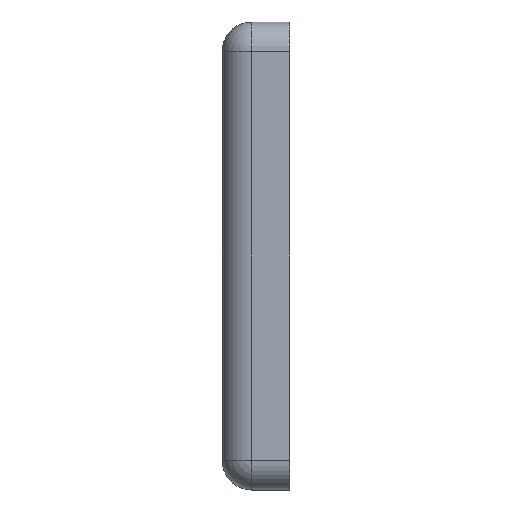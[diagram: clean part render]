
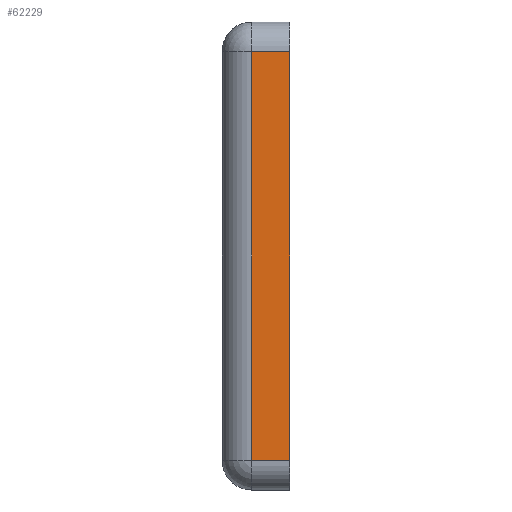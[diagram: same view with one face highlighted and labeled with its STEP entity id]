
A CAD part, left-side view. The second image highlights one B-rep face of the part: STEP entity #62229.
In plain terms, the highlighted planar face has unit normal (-1, 0, 0).
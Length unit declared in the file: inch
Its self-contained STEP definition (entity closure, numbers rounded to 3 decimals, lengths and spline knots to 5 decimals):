
#1601 = CARTESIAN_POINT ( 'NONE',  ( -23., 1.55, 8.3 ) ) ;
#5953 = CARTESIAN_POINT ( 'NONE',  ( -23., 1.55, -8.3 ) ) ;
#8671 = LINE ( 'NONE', #33207, #36611 ) ;
#10456 = VECTOR ( 'NONE', #46744, 39.37008 ) ;
#13126 = VERTEX_POINT ( 'NONE', #1601 ) ;
#13975 = EDGE_CURVE ( 'NONE', #70493, #44557, #26754, .T. ) ;
#18286 = DIRECTION ( 'NONE',  ( -1., 0., 0. ) ) ;
#19476 = PLANE ( 'NONE',  #46466 ) ;
#22197 = LINE ( 'NONE', #71256, #10456 ) ;
#22954 = CARTESIAN_POINT ( 'NONE',  ( -23., 2.75, 8.3 ) ) ;
#23634 = ORIENTED_EDGE ( 'NONE', *, *, #28399, .T. ) ;
#26754 = LINE ( 'NONE', #76173, #53134 ) ;
#27157 = ORIENTED_EDGE ( 'NONE', *, *, #39019, .T. ) ;
#28399 = EDGE_CURVE ( 'NONE', #13126, #40278, #22197, .T. ) ;
#29402 = DIRECTION ( 'NONE',  ( 0., -1., 0. ) ) ;
#29877 = EDGE_CURVE ( 'NONE', #13126, #70493, #78019, .T. ) ;
#30881 = EDGE_LOOP ( 'NONE', ( #74280, #23634, #27157, #69847 ) ) ;
#31985 = CARTESIAN_POINT ( 'NONE',  ( -23., 0., 8.3 ) ) ;
#32312 = CARTESIAN_POINT ( 'NONE',  ( -23., 0., -8.3 ) ) ;
#33207 = CARTESIAN_POINT ( 'NONE',  ( -23., 2.75, -8.3 ) ) ;
#36611 = VECTOR ( 'NONE', #58924, 39.37008 ) ;
#38671 = VECTOR ( 'NONE', #29402, 39.37008 ) ;
#39019 = EDGE_CURVE ( 'NONE', #40278, #44557, #8671, .T. ) ;
#40278 = VERTEX_POINT ( 'NONE', #5953 ) ;
#44557 = VERTEX_POINT ( 'NONE', #32312 ) ;
#46466 = AXIS2_PLACEMENT_3D ( 'NONE', #49654, #18286, #74164 ) ;
#46744 = DIRECTION ( 'NONE',  ( 0., 0., -1. ) ) ;
#49654 = CARTESIAN_POINT ( 'NONE',  ( -23., 2.75, 8.3 ) ) ;
#53134 = VECTOR ( 'NONE', #58122, 39.37008 ) ;
#58122 = DIRECTION ( 'NONE',  ( 0., 0., -1. ) ) ;
#58924 = DIRECTION ( 'NONE',  ( 0., -1., 0. ) ) ;
#62229 = ADVANCED_FACE ( 'NONE', ( #73767 ), #19476, .T. ) ;
#69847 = ORIENTED_EDGE ( 'NONE', *, *, #13975, .F. ) ;
#70493 = VERTEX_POINT ( 'NONE', #31985 ) ;
#71256 = CARTESIAN_POINT ( 'NONE',  ( -23., 1.55, -8.3 ) ) ;
#73767 = FACE_OUTER_BOUND ( 'NONE', #30881, .T. ) ;
#74164 = DIRECTION ( 'NONE',  ( 0., 0., 1. ) ) ;
#74280 = ORIENTED_EDGE ( 'NONE', *, *, #29877, .F. ) ;
#76173 = CARTESIAN_POINT ( 'NONE',  ( -23., 0., 8.3 ) ) ;
#78019 = LINE ( 'NONE', #22954, #38671 ) ;
